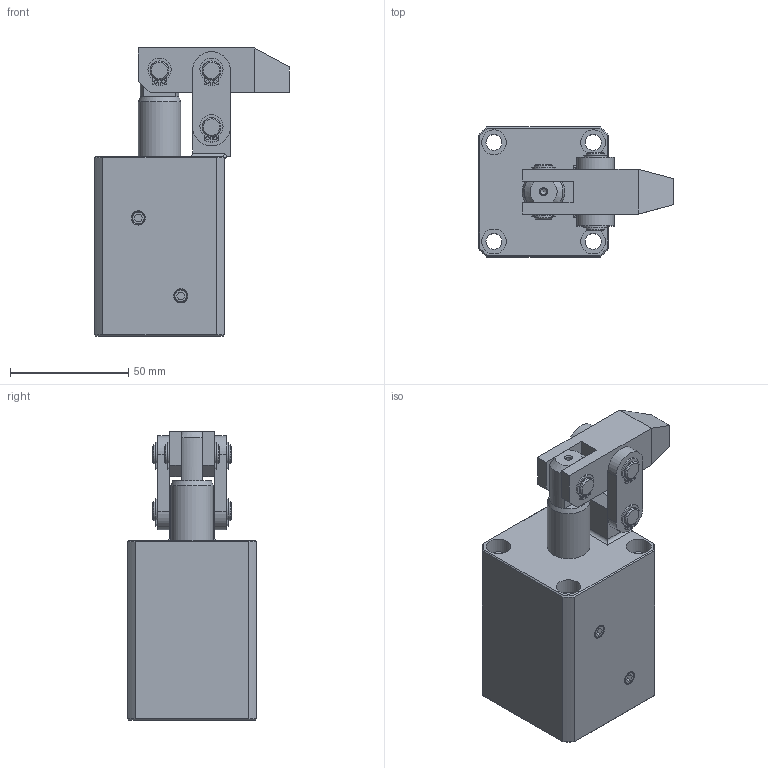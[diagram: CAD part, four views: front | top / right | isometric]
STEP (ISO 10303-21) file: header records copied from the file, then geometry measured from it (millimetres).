
FILE_DESCRIPTION(/* description */ ('Unknown'),/* implementation_level */ '2;1');
FILE_NAME(/* name */ 'HLC-M25-A',/* time_stamp */ '2022-11-23T04:17:18+08:00',/* author */ ('Unknown'),/* organization */ ('Unknown'),/* preprocessor_version */ 'ST-DEVELOPER v16.7',/* originating_system */ 'DEX',/* authorisation */ $);
FILE_SCHEMA (('AUTOMOTIVE_DESIGN {1 0 10303 214 3 1 1}'));
Length unit declared in the file: millimetre
Products named in the file (8): HLC-M25-A; HLC-M25-CYLINDER; HLC-2502-AXLE CENTRE; HLC-25-A; HLC-25-PINªø; HLC-25-PINµu5; HLC-25-墊; HLC-25-C¦©tionRefs
Assembly tree (14 placements, depth 2):
  HLC-M25-A
    HLC-M25-CYLINDER
    HLC-2502-AXLE CENTRE
    HLC-25-A
    HLC-25-PINªø  x2
    HLC-25-PINµu5
    HLC-25-墊  x2
    HLC-25-C¦©tionRefs  x6
Bounding box: 82.5 x 55 x 122 mm (x, y, z)
Volume: 241329.3 mm3; surface area: 54663.6 mm2
Topology: 14 solids, 14 shells, 288 faces, 675 edges, 443 vertices
Faces by surface type: plane 134, cylinder 123, cone 29, torus 2
Full cylindrical faces by diameter (mm): 1.4 x12, 2.6 x1, 4.1 x2, 5 x2, 6.8 x4, 7.5 x6, 8 x18, 10 x2, 10.5 x4, 18 x2, 24.6 x1, 25 x1
Entity records: 5103 total; most frequent: CARTESIAN_POINT 879, DIRECTION 872, ORIENTED_EDGE 688, AXIS2_PLACEMENT_3D 352, EDGE_CURVE 344, FACE_BOUND 297, EDGE_LOOP 294, VERTEX_POINT 255
